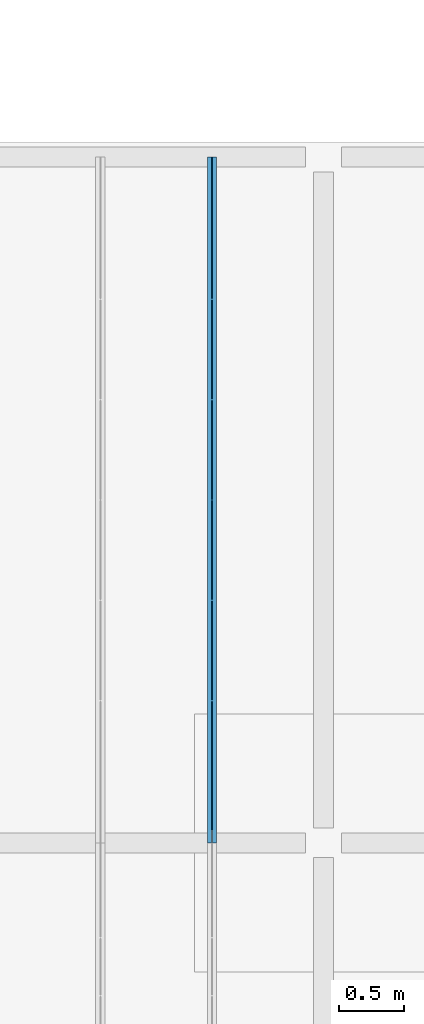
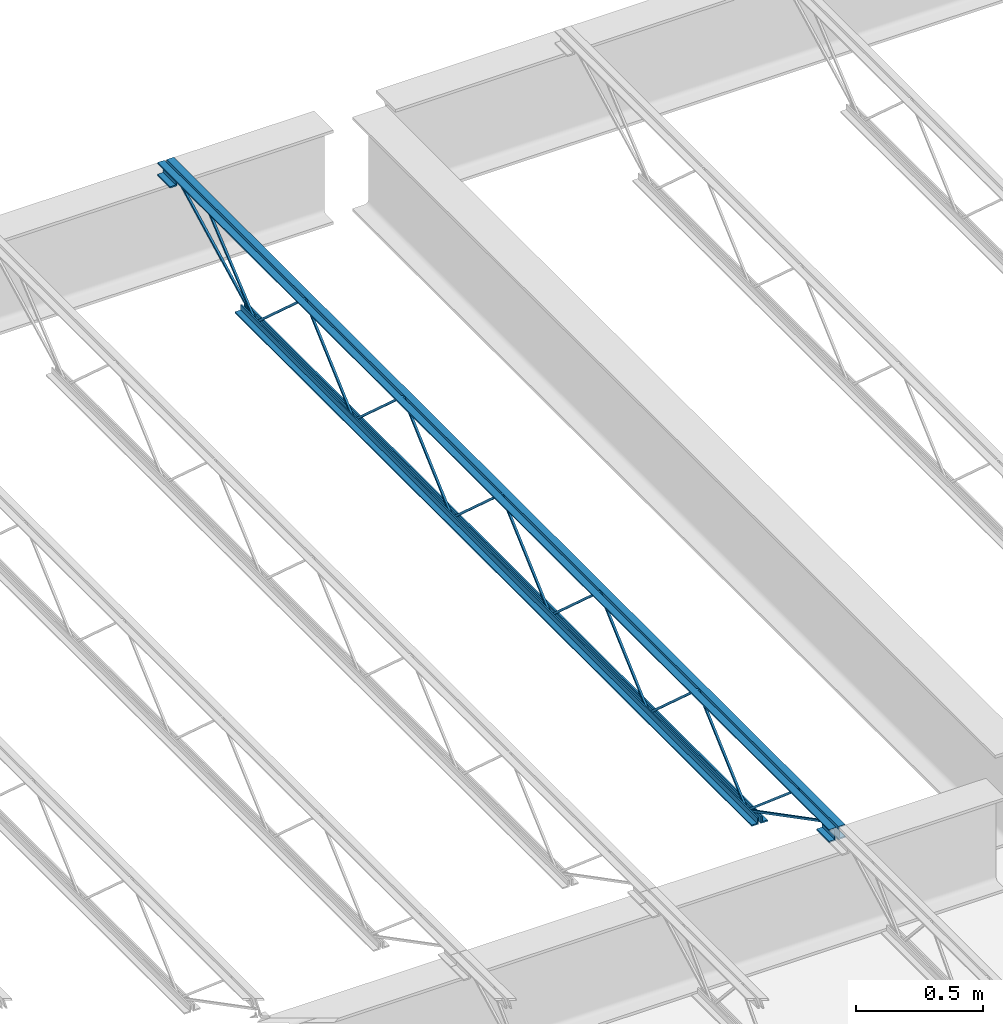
# One storey, part 64 of 75: 1 beam.
"""IFC2X3 building model written with IfcOpenShell, lengths in metres."""

from ifc_helpers import new_model, entity, si_unit, converted_unit, frame, origin, place, context, project, spatial, face_set, surface_model, element, save


model = new_model("IFC2X3")

# Units and contexts
model_context = context("Model", 3, precision=1e-09, world=origin())
plan_context = context("Plan", 3, precision=1e-09, world=origin())
ifc_project = project(units=[si_unit("LENGTHUNIT", "METRE"), si_unit("AREAUNIT", "SQUARE_METRE"), si_unit("VOLUMEUNIT", "CUBIC_METRE"), converted_unit("PLANEANGLEUNIT", "DEGREE", entity("IfcRatioMeasure", 0.01745329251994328), si_unit("PLANEANGLEUNIT", "RADIAN"), dimensions=[0, 0, 0, 0, 0, 0, 0]), si_unit("TIMEUNIT", "SECOND")], contexts=[model_context, plan_context])

# Site, building, storey
site_placement = place(None, origin())
site = spatial("IfcSite", under=ifc_project, at=site_placement, Name="Default", CompositionType="ELEMENT")
building_placement = place(site_placement, origin())
building = spatial("IfcBuilding", under=site, at=building_placement, CompositionType="ELEMENT")
storey_placement = place(building_placement, origin())
storey = spatial("IfcBuildingStorey", under=building, at=storey_placement, Name="First Floor", CompositionType="ELEMENT", Elevation=-3.531500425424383e-13)

# Beam
beam_placement = place(storey_placement, frame((-15.78006249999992, 44.78049999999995, 4.112000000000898), z_axis=(0.0, 0.0, 1.0), x_axis=(-1.0, 0.0, 0.0)))
element("IfcBeam", 1, at=beam_placement, inside=storey, Name="M_K-Series Bar Joist-Rod Web:14K1:14K1", ObjectType="M_K-Series Bar Joist-Rod Web:14K1", context=model_context, shape_type="SurfaceModel", body=[
    surface_model("IfcFaceBasedSurfaceModel", [(-0.0320000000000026, -2.266000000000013, 0.01110000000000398), (-0.04150000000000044, -2.266000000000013, 0.01110000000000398), (-0.04150000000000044, -2.266000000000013, 0.001600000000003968), (-0.0320000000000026, -2.266000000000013, 0.001600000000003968), (-0.04150000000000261, -2.264645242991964, 0.01110000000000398), (-0.0320000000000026, -2.264645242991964, 0.01110000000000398), (-0.04150000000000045, -2.26100475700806, 0.001600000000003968), (-0.04149999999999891, -1.878854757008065, 0.3449000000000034), (-0.04149999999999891, -1.876145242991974, 0.3449000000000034), (-0.04149999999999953, -1.493995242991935, 0.001600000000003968), (-0.04149999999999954, -1.489000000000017, 0.001600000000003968), (-0.04149999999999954, -1.489000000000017, 0.01110000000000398), (-0.04149999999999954, -1.490354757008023, 0.01110000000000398), (-0.04150000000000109, -1.872504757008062, 0.3544000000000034), (-0.04150000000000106, -1.882495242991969, 0.3544000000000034), (-0.03200000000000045, -2.26100475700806, 0.001600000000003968), (-0.03200000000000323, -1.878854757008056, 0.3449000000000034), (-0.03200000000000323, -1.876145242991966, 0.3449000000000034), (-0.0320000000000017, -1.493995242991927, 0.001600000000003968), (-0.03200000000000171, -1.489000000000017, 0.001600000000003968), (-0.03200000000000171, -1.489000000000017, 0.01110000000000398), (-0.0320000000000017, -1.490354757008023, 0.01110000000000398), (-0.03200000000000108, -1.872504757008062, 0.3544000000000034), (-0.03200000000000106, -1.882495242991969, 0.3544000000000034), (-0.03200000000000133, -3.04300000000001, 0.01110000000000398), (-0.04149999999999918, -3.04300000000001, 0.01110000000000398), (-0.04149999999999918, -3.04300000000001, 0.001600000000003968), (-0.03200000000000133, -3.04300000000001, 0.001600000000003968), (-0.04150000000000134, -3.041645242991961, 0.01110000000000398), (-0.03200000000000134, -3.041645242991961, 0.01110000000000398), (-0.04149999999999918, -3.038004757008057, 0.001600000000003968), (-0.0414999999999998, -2.655854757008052, 0.3449000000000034), (-0.04149999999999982, -2.653145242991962, 0.3449000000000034), (-0.04150000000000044, -2.270995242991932, 0.001600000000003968), (-0.04149999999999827, -2.266000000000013, 0.01110000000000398), (-0.04149999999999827, -2.26735475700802, 0.01110000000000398), (-0.04149999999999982, -2.649504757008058, 0.3544000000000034), (-0.0414999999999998, -2.659495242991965, 0.3544000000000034), (-0.03199999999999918, -3.038004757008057, 0.001600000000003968), (-0.03200000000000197, -2.655854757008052, 0.3449000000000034), (-0.03200000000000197, -2.653145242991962, 0.3449000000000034), (-0.03200000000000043, -2.270995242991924, 0.001600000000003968), (-0.03200000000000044, -2.266000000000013, 0.001600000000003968), (-0.0320000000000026, -2.26735475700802, 0.01110000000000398), (-0.03200000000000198, -2.649504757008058, 0.3544000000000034), (-0.03200000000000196, -2.659495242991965, 0.3544000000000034), (-0.03200000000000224, -3.820000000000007, 0.01110000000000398), (-0.04150000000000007, -3.820000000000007, 0.01110000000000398), (-0.04150000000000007, -3.820000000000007, 0.001600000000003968), (-0.03200000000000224, -3.820000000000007, 0.001600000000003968), (-0.04150000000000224, -3.818645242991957, 0.01110000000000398), (-0.03200000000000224, -3.818645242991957, 0.01110000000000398), (-0.04150000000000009, -3.815004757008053, 0.001600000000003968), (-0.0415000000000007, -3.432854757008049, 0.3449000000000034), (-0.04150000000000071, -3.430145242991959, 0.3449000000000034), (-0.04149999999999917, -3.04799524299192, 0.001600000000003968), (-0.04149999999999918, -3.043000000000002, 0.001600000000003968), (-0.04149999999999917, -3.044354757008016, 0.01110000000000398), (-0.04150000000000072, -3.426504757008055, 0.3544000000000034), (-0.0415000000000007, -3.436495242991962, 0.3544000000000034), (-0.03200000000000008, -3.815004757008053, 0.001600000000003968), (-0.03200000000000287, -3.432854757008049, 0.3449000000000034), (-0.03200000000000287, -3.430145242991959, 0.3449000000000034), (-0.03200000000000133, -3.04799524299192, 0.001600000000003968), (-0.03200000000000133, -3.043000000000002, 0.01110000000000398), (-0.03200000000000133, -3.044354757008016, 0.01110000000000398), (-0.03200000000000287, -3.426504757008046, 0.3544000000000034), (-0.03200000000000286, -3.436495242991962, 0.3544000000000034), (-0.03200000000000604, -1.489000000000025, 0.01109999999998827), (-0.04150000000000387, -1.489000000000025, 0.01109999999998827), (-0.04150000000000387, -1.489000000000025, 0.001599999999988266), (-0.03200000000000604, -1.489000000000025, 0.001599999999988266), (-0.04150000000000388, -1.487645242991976, 0.01109999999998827), (-0.03200000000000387, -1.487645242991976, 0.01109999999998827), (-0.04150000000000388, -1.484004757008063, 0.001599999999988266), (-0.04150000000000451, -1.101854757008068, 0.3448999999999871), (-0.04150000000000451, -1.099145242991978, 0.3448999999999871), (-0.04150000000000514, -0.7169952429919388, 0.001599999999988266), (-0.04150000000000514, -0.7120000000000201, 0.001599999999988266), (-0.04150000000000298, -0.7120000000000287, 0.01109999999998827), (-0.04150000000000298, -0.7133547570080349, 0.01109999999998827), (-0.04150000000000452, -1.095504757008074, 0.3543999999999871), (-0.0415000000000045, -1.10549524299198, 0.3543999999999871), (-0.03200000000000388, -1.484004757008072, 0.001599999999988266), (-0.0320000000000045, -1.101854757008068, 0.3448999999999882), (-0.0320000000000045, -1.099145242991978, 0.3448999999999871), (-0.03200000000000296, -0.7169952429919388, 0.001599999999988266), (-0.03200000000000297, -0.7120000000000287, 0.001599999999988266), (-0.0320000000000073, -0.7120000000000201, 0.01109999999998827), (-0.03200000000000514, -0.7133547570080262, 0.01109999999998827), (-0.03200000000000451, -1.095504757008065, 0.3543999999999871), (-0.0320000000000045, -1.105495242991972, 0.3543999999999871), (-0.03200000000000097, -4.597000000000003, 0.01110000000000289), (-0.04149999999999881, -4.597000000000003, 0.01110000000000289), (-0.04149999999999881, -4.597000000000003, 0.001600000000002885), (-0.03200000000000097, -4.597000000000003, 0.001600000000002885), (-0.04150000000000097, -4.595645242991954, 0.01110000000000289), (-0.03200000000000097, -4.595645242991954, 0.01110000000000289), (-0.04149999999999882, -4.592004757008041, 0.001600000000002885), (-0.04149999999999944, -4.209854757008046, 0.3449000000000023), (-0.04149999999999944, -4.207145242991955, 0.3449000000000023), (-0.04150000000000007, -3.824995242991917, 0.001600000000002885), (-0.04150000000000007, -3.819999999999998, 0.001600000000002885), (-0.04149999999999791, -3.820000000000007, 0.01110000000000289), (-0.04149999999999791, -3.821354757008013, 0.01110000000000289), (-0.04149999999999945, -4.203504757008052, 0.3544000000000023), (-0.04149999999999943, -4.213495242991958, 0.3544000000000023), (-0.03199999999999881, -4.592004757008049, 0.001600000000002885), (-0.0320000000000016, -4.209854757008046, 0.3449000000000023), (-0.0320000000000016, -4.207145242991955, 0.3449000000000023), (-0.03200000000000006, -3.824995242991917, 0.001600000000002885), (-0.03200000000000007, -3.820000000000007, 0.001600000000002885), (-0.03200000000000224, -3.819999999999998, 0.01110000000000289), (-0.03200000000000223, -3.821354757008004, 0.01110000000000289), (-0.03200000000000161, -4.203504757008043, 0.3544000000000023), (-0.03200000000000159, -4.213495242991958, 0.3544000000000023), (-0.04150000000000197, 0.0, 0.3559999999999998), (-0.07350000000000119, 0.0, 0.3559999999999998), (-0.07350000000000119, 0.0, 0.349499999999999), (-0.04800000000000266, 0.0, 0.349499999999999), (-0.04800000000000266, 0.0, 0.3239999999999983), (-0.04150000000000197, 0.0, 0.3239999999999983), (-0.03200000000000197, 0.0, 0.3559999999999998), (-0.03200000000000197, 0.0, 0.3239999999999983), (-0.02550000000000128, 0.0, 0.3239999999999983), (-0.02550000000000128, 0.0, 0.349499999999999), (0.0, 0.0, 0.349499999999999), (0.0, 0.0, 0.3559999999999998), (-0.04150000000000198, -5.309000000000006, 0.3559999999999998), (-0.0735000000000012, -5.309000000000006, 0.3559999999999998), (-0.0735000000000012, -5.309000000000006, 0.349499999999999), (-0.04800000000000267, -5.309000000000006, 0.349499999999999), (-0.04800000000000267, -5.309000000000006, 0.3239999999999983), (-0.04150000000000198, -5.309000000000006, 0.3239999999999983), (-0.03200000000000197, -5.309000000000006, 0.3559999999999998), (-0.03200000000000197, -5.309000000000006, 0.3239999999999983), (-0.02550000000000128, -5.309000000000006, 0.3239999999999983), (-0.02550000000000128, -5.309000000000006, 0.349499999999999), (0.0, -5.309000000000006, 0.349499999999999), (0.0, -5.309000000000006, 0.3559999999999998), (-0.03200000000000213, -5.20900000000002, 0.2924999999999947), (0.0, -5.20900000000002, 0.2924999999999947), (0.0, -5.20900000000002, 0.2989999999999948), (-0.02550000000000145, -5.20900000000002, 0.2989999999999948), (-0.02550000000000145, -5.20900000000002, 0.3239999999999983), (-0.03200000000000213, -5.20900000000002, 0.3239999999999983), (-0.07350000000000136, -5.20900000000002, 0.2924999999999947), (-0.04150000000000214, -5.20900000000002, 0.2924999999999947), (-0.04150000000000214, -5.20900000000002, 0.3239999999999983), (-0.04800000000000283, -5.20900000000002, 0.3239999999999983), (-0.04800000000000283, -5.20900000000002, 0.2989999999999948), (-0.07350000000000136, -5.20900000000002, 0.2989999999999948), (-0.03200000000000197, -5.309000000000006, 0.2924999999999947), (0.0, -5.309000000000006, 0.2924999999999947), (0.0, -5.309000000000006, 0.2989999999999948), (-0.02550000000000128, -5.309000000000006, 0.2989999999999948), (-0.0735000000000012, -5.309000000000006, 0.2924999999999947), (-0.04150000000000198, -5.309000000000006, 0.2924999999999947), (-0.04800000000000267, -5.309000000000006, 0.2989999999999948), (-0.0735000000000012, -5.309000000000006, 0.2989999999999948), (-0.04150000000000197, 0.0, 0.2924999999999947), (-0.04800000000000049, 0.0, 0.3239999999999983), (-0.04800000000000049, 0.0, 0.2989999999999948), (-0.07350000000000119, 0.0, 0.2989999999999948), (-0.07350000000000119, 0.0, 0.2924999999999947), (-0.03200000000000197, 0.0, 0.2924999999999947), (0.0, 0.0, 0.2924999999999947), (0.0, 0.0, 0.2989999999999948), (-0.02550000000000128, 0.0, 0.2989999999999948), (-0.04150000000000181, -0.1000000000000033, 0.2924999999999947), (-0.04150000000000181, -0.1000000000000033, 0.3239999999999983), (-0.04800000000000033, -0.1000000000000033, 0.3239999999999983), (-0.04800000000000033, -0.1000000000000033, 0.2989999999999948), (-0.07350000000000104, -0.1000000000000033, 0.2989999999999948), (-0.07350000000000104, -0.1000000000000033, 0.2924999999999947), (-0.03200000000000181, -0.1000000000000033, 0.2924999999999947), (0.0, -0.1000000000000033, 0.2924999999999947), (0.0, -0.1000000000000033, 0.2989999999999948), (-0.02550000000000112, -0.1000000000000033, 0.2989999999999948), (-0.02550000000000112, -0.1000000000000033, 0.3239999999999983), (-0.03200000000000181, -0.1000000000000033, 0.3239999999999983), (-0.04150000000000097, -0.6119999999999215, 0.0), (-0.04150000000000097, -0.6119999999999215, 0.03199999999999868), (-0.04800000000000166, -0.6119999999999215, 0.03199999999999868), (-0.04800000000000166, -0.6119999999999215, 0.006499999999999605), (-0.07350000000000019, -0.6119999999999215, 0.006499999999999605), (-0.07350000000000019, -0.6119999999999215, 0.0), (-0.03200000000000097, -0.6119999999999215, 0.0), (0.0, -0.6119999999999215, 0.0), (0.0, -0.6119999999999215, 0.006499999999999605), (-0.02550000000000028, -0.6119999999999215, 0.006499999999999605), (-0.02550000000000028, -0.6119999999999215, 0.03199999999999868), (-0.03200000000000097, -0.6119999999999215, 0.03199999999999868), (-0.04150000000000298, -4.696999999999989, 0.0), (-0.04150000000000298, -4.696999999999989, 0.03199999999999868), (-0.04800000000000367, -4.696999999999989, 0.03199999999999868), (-0.04800000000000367, -4.696999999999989, 0.006499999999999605), (-0.0735000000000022, -4.696999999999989, 0.006499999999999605), (-0.0735000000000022, -4.696999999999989, 0.0), (-0.03200000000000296, -4.696999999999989, 0.0), (0.0, -4.696999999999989, 0.0), (0.0, -4.696999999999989, 0.006499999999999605), (-0.02550000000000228, -4.696999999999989, 0.006499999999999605), (-0.02550000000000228, -4.696999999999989, 0.03199999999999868), (-0.03200000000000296, -4.696999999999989, 0.03199999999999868), (-0.03199999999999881, -4.594811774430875, 0.01056594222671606), (-0.04149999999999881, -4.594811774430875, 0.01056594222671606), (-0.04149999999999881, -4.599188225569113, 0.002134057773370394), (-0.03200000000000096, -4.599188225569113, 0.002134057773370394), (-0.0319999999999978, -5.207840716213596, 0.3287499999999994), (-0.0319999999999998, -5.308999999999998, 0.3287499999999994), (-0.0319999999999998, -5.308999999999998, 0.3192499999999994), (-0.03199999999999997, -5.210159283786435, 0.3192499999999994), (-0.04149999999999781, -5.210159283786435, 0.3192499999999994), (-0.04149999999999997, -5.207840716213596, 0.3287499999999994), (-0.04149999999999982, -5.308999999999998, 0.3287499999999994), (-0.04149999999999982, -5.309000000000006, 0.3192499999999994), (-0.03200000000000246, -5.005457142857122, 0.341700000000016), (-0.0415000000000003, -5.005457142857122, 0.341700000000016), (-0.0415000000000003, -5.005457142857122, 0.332200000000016), (-0.03200000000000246, -5.005457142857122, 0.332200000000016), (-0.04150000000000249, -4.991034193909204, 0.341700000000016), (-0.03200000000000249, -4.991034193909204, 0.341700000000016), (-0.04150000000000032, -4.994480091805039, 0.332200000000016), (-0.0414999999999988, -4.600045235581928, 0.002704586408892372), (-0.04150000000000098, -4.593954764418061, 0.009995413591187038), (-0.03200000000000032, -4.994480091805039, 0.332200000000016), (-0.03200000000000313, -4.600045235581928, 0.002704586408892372), (-0.03199999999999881, -4.593954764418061, 0.009995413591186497), (-0.03199999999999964, -0.09781177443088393, 0.3197840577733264), (-0.03200000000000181, -0.1021882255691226, 0.3282159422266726), (-0.04150000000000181, -0.1021882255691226, 0.3282159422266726), (-0.04149999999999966, -0.09781177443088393, 0.3197840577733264), (-0.03200000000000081, -0.7098117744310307, 0.002134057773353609), (-0.03200000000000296, -0.7141882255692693, 0.01056594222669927), (-0.04150000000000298, -0.7141882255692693, 0.01056594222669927), (-0.04150000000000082, -0.7098117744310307, 0.002134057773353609), (-0.0319999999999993, -0.3059055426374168, 0.3460340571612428), (-0.03200000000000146, -0.3120658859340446, 0.3532659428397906), (-0.04150000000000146, -0.3120658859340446, 0.3532659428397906), (-0.04149999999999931, -0.3059055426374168, 0.3460340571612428), (-0.03200000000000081, -0.7089198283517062, 0.002734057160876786), (-0.03200000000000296, -0.7150801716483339, 0.009965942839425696), (-0.04150000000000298, -0.7150801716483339, 0.009965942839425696), (-0.04150000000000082, -0.7089198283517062, 0.002734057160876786)], [face_set([[[0, 1, 2, 3]], [[1, 4, 5, 0]], [[2, 6, 7, 8, 9, 10, 11, 12, 13, 14, 4, 1]], [[3, 2, 6, 15]], [[0, 3, 15, 16, 17, 18, 19, 20, 21, 22, 23, 5]], [[4, 5, 23, 14]], [[15, 16, 7, 6]], [[14, 13, 22, 23]], [[16, 7, 8, 17]], [[13, 12, 21, 22]], [[17, 8, 9, 18]], [[20, 11, 10, 19]], [[12, 11, 20, 21]], [[18, 9, 10, 19]]]), face_set([[[24, 25, 26, 27]], [[25, 28, 29, 24]], [[26, 30, 31, 32, 33, 2, 34, 35, 36, 37, 28, 25]], [[27, 26, 30, 38]], [[24, 27, 38, 39, 40, 41, 42, 0, 43, 44, 45, 29]], [[28, 29, 45, 37]], [[38, 39, 31, 30]], [[37, 36, 44, 45]], [[39, 31, 32, 40]], [[36, 35, 43, 44]], [[40, 32, 33, 41]], [[0, 34, 2, 42]], [[35, 34, 0, 43]], [[41, 33, 2, 42]]]), face_set([[[46, 47, 48, 49]], [[47, 50, 51, 46]], [[48, 52, 53, 54, 55, 56, 25, 57, 58, 59, 50, 47]], [[49, 48, 52, 60]], [[46, 49, 60, 61, 62, 63, 27, 64, 65, 66, 67, 51]], [[50, 51, 67, 59]], [[60, 61, 53, 52]], [[59, 58, 66, 67]], [[61, 53, 54, 62]], [[58, 57, 65, 66]], [[62, 54, 55, 63]], [[64, 25, 56, 27]], [[57, 25, 64, 65]], [[63, 55, 56, 27]]]), face_set([[[68, 69, 70, 71]], [[69, 72, 73, 68]], [[70, 74, 75, 76, 77, 78, 79, 80, 81, 82, 72, 69]], [[71, 70, 74, 83]], [[68, 71, 83, 84, 85, 86, 87, 88, 89, 90, 91, 73]], [[72, 73, 91, 82]], [[83, 84, 75, 74]], [[82, 81, 90, 91]], [[84, 75, 76, 85]], [[81, 80, 89, 90]], [[85, 76, 77, 86]], [[88, 79, 78, 87]], [[80, 79, 88, 89]], [[86, 77, 78, 87]]]), face_set([[[92, 93, 94, 95]], [[93, 96, 97, 92]], [[94, 98, 99, 100, 101, 102, 103, 104, 105, 106, 96, 93]], [[95, 94, 98, 107]], [[92, 95, 107, 108, 109, 110, 111, 112, 113, 114, 115, 97]], [[96, 97, 115, 106]], [[107, 108, 99, 98]], [[106, 105, 114, 115]], [[108, 99, 100, 109]], [[105, 104, 113, 114]], [[109, 100, 101, 110]], [[112, 103, 102, 111]], [[104, 103, 112, 113]], [[110, 101, 102, 111]]]), face_set([[[116, 117, 118, 119, 120, 121]], [[122, 123, 124, 125, 126, 127]], [[128, 129, 130, 131, 132, 133]], [[134, 135, 136, 137, 138, 139]], [[121, 116, 128, 133]], [[120, 121, 133, 132]], [[119, 131, 132, 120]], [[118, 119, 131, 130]], [[117, 129, 130, 118]], [[116, 128, 129, 117]], [[127, 139, 134, 122]], [[126, 127, 139, 138]], [[125, 126, 138, 137]], [[124, 125, 137, 136]], [[123, 124, 136, 135]], [[122, 134, 135, 123]]]), face_set([[[140, 141, 142, 143, 144, 145]], [[146, 147, 148, 149, 150, 151]], [[152, 153, 154, 155, 136, 135]], [[156, 157, 133, 132, 158, 159]], [[145, 135, 152, 140]], [[144, 136, 135, 145]], [[143, 144, 136, 155]], [[142, 154, 155, 143]], [[141, 142, 154, 153]], [[140, 141, 153, 152]], [[151, 159, 156, 146]], [[150, 158, 159, 151]], [[149, 132, 158, 150]], [[148, 133, 132, 149]], [[147, 148, 133, 157]], [[146, 147, 157, 156]]]), face_set([[[160, 121, 161, 162, 163, 164]], [[165, 166, 167, 168, 124, 123]], [[169, 170, 171, 172, 173, 174]], [[175, 176, 177, 178, 179, 180]], [[164, 160, 169, 174]], [[163, 173, 174, 164]], [[162, 172, 173, 163]], [[161, 171, 172, 162]], [[121, 170, 171, 161]], [[160, 121, 170, 169]], [[123, 180, 175, 165]], [[124, 179, 180, 123]], [[168, 124, 179, 178]], [[167, 177, 178, 168]], [[166, 167, 177, 176]], [[165, 166, 176, 175]]]), face_set([[[181, 182, 183, 184, 185, 186]], [[187, 188, 189, 190, 191, 192]], [[193, 194, 195, 196, 197, 198]], [[199, 200, 201, 202, 203, 204]], [[186, 181, 193, 198]], [[185, 197, 198, 186]], [[184, 196, 197, 185]], [[183, 195, 196, 184]], [[182, 194, 195, 183]], [[181, 182, 194, 193]], [[192, 204, 199, 187]], [[191, 203, 204, 192]], [[190, 191, 203, 202]], [[189, 201, 202, 190]], [[188, 189, 201, 200]], [[187, 188, 200, 199]]]), face_set([[[205, 206, 207, 208]], [[208, 205, 209, 210, 211, 212]], [[207, 208, 212, 213]], [[206, 214, 215, 216, 213, 207]], [[205, 209, 214, 206]], [[210, 215, 216, 211]], [[213, 212, 211, 216]], [[209, 210, 215, 214]]]), face_set([[[217, 218, 219, 220]], [[218, 221, 222, 217]], [[219, 223, 224, 225, 221, 218]], [[220, 219, 223, 226]], [[217, 220, 226, 227, 228, 222]], [[228, 225, 224, 227]], [[221, 225, 228, 222]], [[226, 223, 224, 227]]]), face_set([[[229, 230, 231, 232]], [[233, 234, 235, 236]], [[232, 236, 233, 229]], [[231, 235, 236, 232]], [[230, 231, 235, 234]], [[229, 230, 234, 233]]]), face_set([[[237, 238, 239, 240]], [[241, 242, 243, 244]], [[240, 244, 241, 237]], [[239, 243, 244, 240]], [[238, 239, 243, 242]], [[237, 238, 242, 241]]])]),
])

save(model, "model.ifc")
